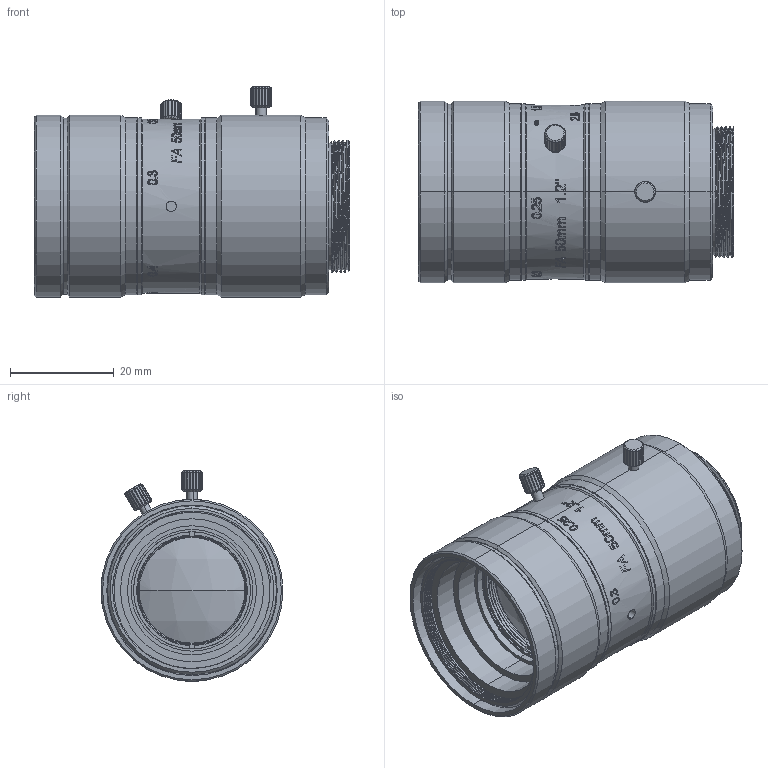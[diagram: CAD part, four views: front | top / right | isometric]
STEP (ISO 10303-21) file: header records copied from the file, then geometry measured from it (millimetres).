
FILE_DESCRIPTION (( 'STEP AP203' ), '1' );
FILE_NAME ('F12M5028C25M.STEP', '2023-02-06T11:59:48', ( '' ), ( '' ), 'SwSTEP 2.0', 'SolidWorks 2021', '' );
FILE_SCHEMA (( 'CONFIG_CONTROL_DESIGN' ));
Length unit declared in the file: millimetre
Products named in the file (4): 坶踡隊1; F12M5028C25M; SNZFS-M1.6-3; F50mm
Assembly tree (6 placements, depth 2):
  F12M5028C25M
    F50mm
    SNZFS-M1.6-3  x3
    坶踡隊1  x2
Bounding box: 60.6 x 35 x 40.5 mm (x, y, z)
Volume: 43212.2 mm3; surface area: 14353.4 mm2
Topology: 7 solids, 7 shells, 1014 faces, 2568 edges, 1657 vertices
Faces by surface type: plane 417, bspline 309, cylinder 215, cone 69, sphere 4
Entity records: 55439 total; most frequent: CARTESIAN_POINT 37314, ORIENTED_EDGE 4312, DIRECTION 2524, EDGE_CURVE 2156, VERTEX_POINT 1405, B_SPLINE_CURVE_WITH_KNOTS 1102, AXIS2_PLACEMENT_3D 962, EDGE_LOOP 935
